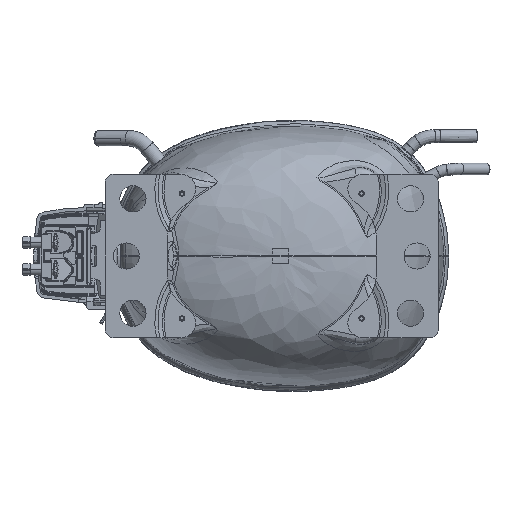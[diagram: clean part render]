
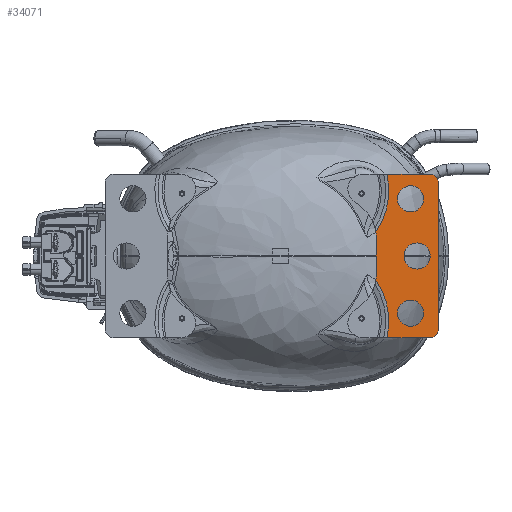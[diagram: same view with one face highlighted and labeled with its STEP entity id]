
A CAD part, front view. The second image highlights one B-rep face of the part: STEP entity #34071.
In plain terms, the highlighted planar face has unit normal (0, -1, 0) as drawn and (0, 0, 1) by its records, which use the part's own axes.
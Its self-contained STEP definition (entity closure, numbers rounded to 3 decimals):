
#32787=DIRECTION('',(-1.,0.,0.));
#32788=VECTOR('',#32787,26.484);
#32789=CARTESIAN_POINT('',(-5.,50.,4.));
#32790=LINE('',#32789,#32788);
#32842=DIRECTION('',(0.,-1.,0.));
#32843=VECTOR('',#32842,90.);
#32844=CARTESIAN_POINT('',(0.,45.,4.));
#32845=LINE('',#32844,#32843);
#32849=CARTESIAN_POINT('',(-5.,-45.,4.));
#32850=DIRECTION('',(0.,0.,1.));
#32851=DIRECTION('',(0.,-1.,0.));
#32852=AXIS2_PLACEMENT_3D('',#32849,#32850,#32851);
#32857=CARTESIAN_POINT('',(-60.,-11.75,4.));
#32858=DIRECTION('',(0.,0.,-1.));
#32859=DIRECTION('',(1.,0.,0.));
#32860=AXIS2_PLACEMENT_3D('',#32857,#32858,#32859);
#32865=DIRECTION('',(0.,1.,0.));
#32866=VECTOR('',#32865,23.5);
#32867=CARTESIAN_POINT('',(-38.,-11.75,4.));
#32868=LINE('',#32867,#32866);
#32872=CARTESIAN_POINT('',(-60.,11.75,4.));
#32873=DIRECTION('',(0.,0.,1.));
#32874=DIRECTION('',(1.,0.,0.));
#32875=AXIS2_PLACEMENT_3D('',#32872,#32873,#32874);
#32880=CARTESIAN_POINT('',(-5.,45.,4.));
#32881=DIRECTION('',(0.,0.,-1.));
#32882=DIRECTION('',(0.,1.,0.));
#32883=AXIS2_PLACEMENT_3D('',#32880,#32881,#32882);
#32888=CARTESIAN_POINT('',(-17.,-35.,4.));
#32889=DIRECTION('',(0.,0.,-1.));
#32890=DIRECTION('',(1.,0.,0.));
#32891=AXIS2_PLACEMENT_3D('',#32888,#32889,#32890);
#32896=CARTESIAN_POINT('',(-17.,-35.,4.));
#32897=DIRECTION('',(0.,0.,-1.));
#32898=DIRECTION('',(-1.,0.,0.));
#32899=AXIS2_PLACEMENT_3D('',#32896,#32897,#32898);
#32904=CARTESIAN_POINT('',(-17.,35.,4.));
#32905=DIRECTION('',(0.,0.,1.));
#32906=DIRECTION('',(1.,0.,0.));
#32907=AXIS2_PLACEMENT_3D('',#32904,#32905,#32906);
#32912=CARTESIAN_POINT('',(-17.,35.,4.));
#32913=DIRECTION('',(0.,0.,1.));
#32914=DIRECTION('',(-1.,0.,0.));
#32915=AXIS2_PLACEMENT_3D('',#32912,#32913,#32914);
#32920=CARTESIAN_POINT('',(-13.,0.,4.));
#32921=DIRECTION('',(0.,0.,1.));
#32922=DIRECTION('',(1.,0.,0.));
#32923=AXIS2_PLACEMENT_3D('',#32920,#32921,#32922);
#32928=CARTESIAN_POINT('',(-13.,0.,4.));
#32929=DIRECTION('',(0.,0.,-1.));
#32930=DIRECTION('',(1.,0.,0.));
#32931=AXIS2_PLACEMENT_3D('',#32928,#32929,#32930);
#33118=DIRECTION('',(-1.,0.,0.));
#33119=VECTOR('',#33118,26.484);
#33120=CARTESIAN_POINT('',(-5.,-50.,4.));
#33121=LINE('',#33120,#33119);
#33426=CARTESIAN_POINT('',(-75.,-40.,4.));
#33427=DIRECTION('',(0.,0.,-1.));
#33428=DIRECTION('',(0.824,0.566,0.));
#33429=AXIS2_PLACEMENT_3D('',#33426,#33427,#33428);
#33602=CARTESIAN_POINT('',(-75.,40.,4.));
#33603=DIRECTION('',(0.,0.,1.));
#33604=DIRECTION('',(0.824,-0.566,0.));
#33605=AXIS2_PLACEMENT_3D('',#33602,#33603,#33604);
#33831=CARTESIAN_POINT('',(-9.,35.,4.));
#33832=CARTESIAN_POINT('',(-25.,35.,4.));
#33833=VERTEX_POINT('',#33831);
#33834=VERTEX_POINT('',#33832);
#33835=CARTESIAN_POINT('',(-5.,50.,4.));
#33836=CARTESIAN_POINT('',(0.,45.,4.));
#33837=VERTEX_POINT('',#33835);
#33838=VERTEX_POINT('',#33836);
#33843=CARTESIAN_POINT('',(-31.484,50.,4.));
#33844=VERTEX_POINT('',#33843);
#33845=CARTESIAN_POINT('',(-38.,11.75,4.));
#33846=CARTESIAN_POINT('',(-38.2,14.713,4.));
#33847=VERTEX_POINT('',#33845);
#33848=VERTEX_POINT('',#33846);
#33905=CARTESIAN_POINT('',(-9.,-35.,4.));
#33906=CARTESIAN_POINT('',(-25.,-35.,4.));
#33907=VERTEX_POINT('',#33905);
#33908=VERTEX_POINT('',#33906);
#33909=CARTESIAN_POINT('',(-5.,-50.,4.));
#33910=CARTESIAN_POINT('',(0.,-45.,4.));
#33911=VERTEX_POINT('',#33909);
#33912=VERTEX_POINT('',#33910);
#33917=CARTESIAN_POINT('',(-31.484,-50.,4.));
#33918=VERTEX_POINT('',#33917);
#33919=CARTESIAN_POINT('',(-38.,-11.75,4.));
#33920=CARTESIAN_POINT('',(-38.2,-14.713,4.));
#33921=VERTEX_POINT('',#33919);
#33922=VERTEX_POINT('',#33920);
#33936=CARTESIAN_POINT('',(-5.,0.,4.));
#33938=VERTEX_POINT('',#33936);
#33940=CARTESIAN_POINT('',(-21.,0.,4.));
#33942=VERTEX_POINT('',#33940);
#34027=CARTESIAN_POINT('',(-75.,40.,4.));
#34028=DIRECTION('',(0.,0.,1.));
#34029=DIRECTION('',(1.,0.,0.));
#34030=AXIS2_PLACEMENT_3D('',#34027,#34028,#34029);
#34031=PLANE('',#34030);
#34033=ORIENTED_EDGE('',*,*,#34032,.T.);
#34035=ORIENTED_EDGE('',*,*,#34034,.F.);
#34037=ORIENTED_EDGE('',*,*,#34036,.T.);
#34039=ORIENTED_EDGE('',*,*,#34038,.F.);
#34041=ORIENTED_EDGE('',*,*,#34040,.F.);
#34043=ORIENTED_EDGE('',*,*,#34042,.T.);
#34045=ORIENTED_EDGE('',*,*,#34044,.T.);
#34047=ORIENTED_EDGE('',*,*,#34046,.T.);
#34048=ORIENTED_EDGE('',*,*,#33994,.F.);
#34050=ORIENTED_EDGE('',*,*,#34049,.T.);
#34051=EDGE_LOOP('',(#34033,#34035,#34037,#34039,#34041,#34043,#34045,#34047,
#34048,#34050));
#34052=FACE_OUTER_BOUND('',#34051,.F.);
#34054=ORIENTED_EDGE('',*,*,#34053,.F.);
#34056=ORIENTED_EDGE('',*,*,#34055,.F.);
#34057=EDGE_LOOP('',(#34054,#34056));
#34058=FACE_BOUND('',#34057,.F.);
#34060=ORIENTED_EDGE('',*,*,#34059,.T.);
#34062=ORIENTED_EDGE('',*,*,#34061,.T.);
#34063=EDGE_LOOP('',(#34060,#34062));
#34064=FACE_BOUND('',#34063,.F.);
#34066=ORIENTED_EDGE('',*,*,#34065,.T.);
#34068=ORIENTED_EDGE('',*,*,#34067,.F.);
#34069=EDGE_LOOP('',(#34066,#34068));
#34070=FACE_BOUND('',#34069,.F.);
#32853=CIRCLE('',#32852,5.);
#32861=CIRCLE('',#32860,22.);
#32876=CIRCLE('',#32875,22.);
#32884=CIRCLE('',#32883,5.);
#32892=CIRCLE('',#32891,8.);
#32900=CIRCLE('',#32899,8.);
#32908=CIRCLE('',#32907,8.);
#32916=CIRCLE('',#32915,8.);
#32924=CIRCLE('',#32923,8.);
#32932=CIRCLE('',#32931,8.);
#33430=CIRCLE('',#33429,44.65);
#33606=CIRCLE('',#33605,44.65);
#33994=EDGE_CURVE('',#33837,#33844,#32790,.T.);
#34032=EDGE_CURVE('',#33838,#33912,#32845,.T.);
#34034=EDGE_CURVE('',#33911,#33912,#32853,.T.);
#34036=EDGE_CURVE('',#33911,#33918,#33121,.T.);
#34038=EDGE_CURVE('',#33922,#33918,#33430,.T.);
#34040=EDGE_CURVE('',#33921,#33922,#32861,.T.);
#34042=EDGE_CURVE('',#33921,#33847,#32868,.T.);
#34044=EDGE_CURVE('',#33847,#33848,#32876,.T.);
#34046=EDGE_CURVE('',#33848,#33844,#33606,.T.);
#34049=EDGE_CURVE('',#33837,#33838,#32884,.T.);
#34053=EDGE_CURVE('',#33907,#33908,#32892,.T.);
#34055=EDGE_CURVE('',#33908,#33907,#32900,.T.);
#34059=EDGE_CURVE('',#33833,#33834,#32908,.T.);
#34061=EDGE_CURVE('',#33834,#33833,#32916,.T.);
#34065=EDGE_CURVE('',#33938,#33942,#32924,.T.);
#34067=EDGE_CURVE('',#33938,#33942,#32932,.T.);
#34071=ADVANCED_FACE('',(#34052,#34058,#34064,#34070),#34031,.T.);
